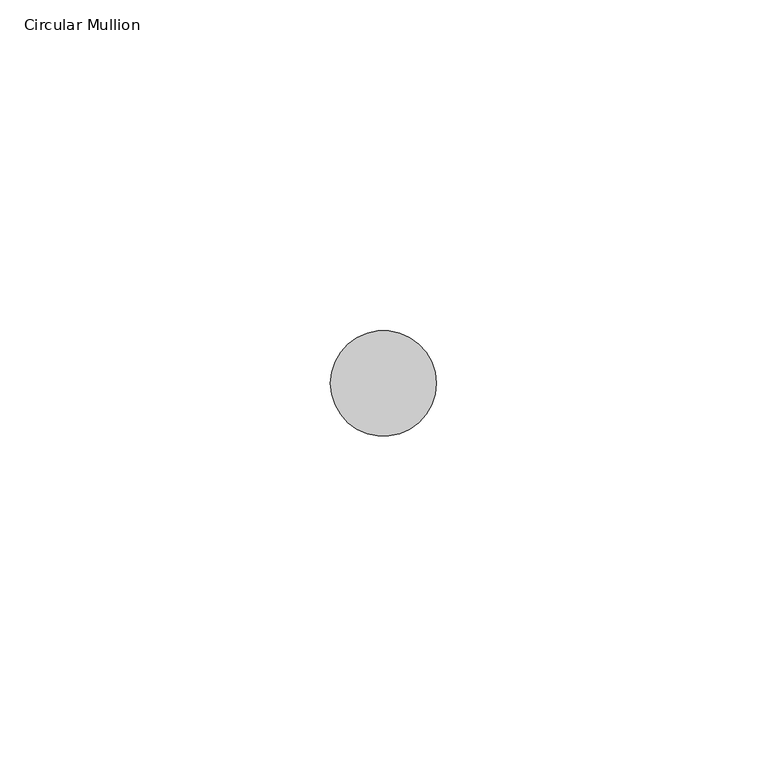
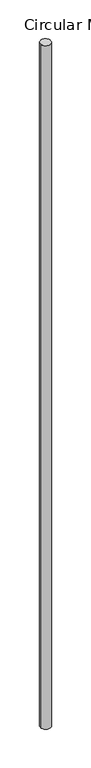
"""IFC4 building model written with IfcOpenShell, lengths in millimetres: member geometry, Circular Mullion : ARQ_HERR_16mm."""

from ifc_helpers import new_model, si_unit, point, frame, origin, origin_2d, place, context, project, spatial, circle_curve, trimmed, segment, composite_curve, outline, extrude, source, transform, mapped, element, save


def circular_mullion_e8028f71(model_context):
    return source(origin(), model_context, "Body", "SweptSolid", [
        extrude(outline(composite_curve([segment(trimmed(circle_curve(origin_2d(), 8.0), [point((8.0, 0.0))], [point((-8.0, 0.0))], False, "CARTESIAN"), True, "CONTINUOUS"), segment(trimmed(circle_curve(origin_2d(), 8.0), [point((-8.0, 0.0))], [point((8.0, 0.0))], False, "CARTESIAN"), True, "CONTINUOUS")], self_intersect=False)), frame((0.0, 0.0, -1111.5219325), z_axis=(0.0, 0.0, 1.0), x_axis=(1.0, 0.0, 0.0)), (0.0, 0.0, 1.0), 1111.5219325),
    ])


if __name__ == "__main__":
    model = new_model("IFC4")
    model_context = context("Model", 3, world=origin())
    ifc_project = project(units=[si_unit("LENGTHUNIT", "METRE", prefix="MILLI")], contexts=[model_context])
    site = spatial("IfcSite", under=ifc_project)
    building = spatial("IfcBuilding", under=site)
    placement = place(None, origin())
    circular_mullion_shape = circular_mullion_e8028f71(model_context)
    element("IfcMember", 1, ObjectType="Circular Mullion : ARQ_HERR_16mm", at=placement, inside=building, context=model_context, shape_type="MappedRepresentation", body=[
        mapped(circular_mullion_shape, transform((0.0, 0.0, 0.0), x_axis=(1.0, 0.0, 0.0), y_axis=(0.0, 1.0, 0.0), z_axis=(0.0, 0.0, 1.0))),
    ])
    save(model, "model.ifc")
